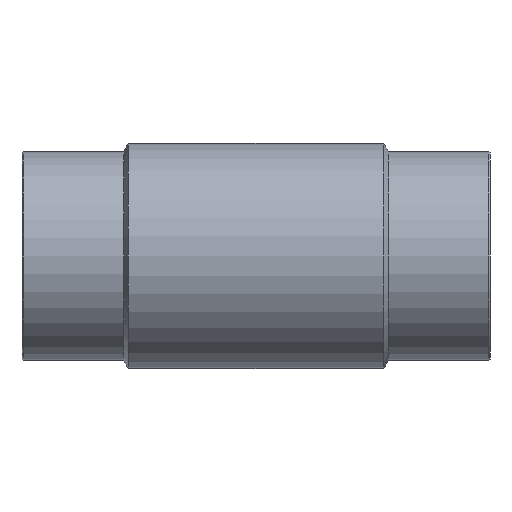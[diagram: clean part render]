
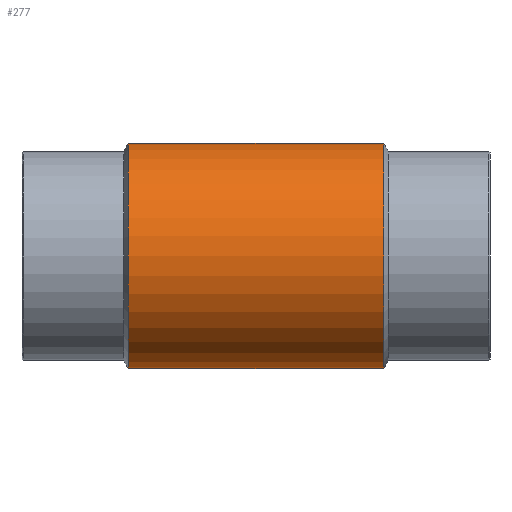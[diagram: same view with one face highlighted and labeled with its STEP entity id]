
A CAD part, front view. The second image highlights one B-rep face of the part: STEP entity #277.
In plain terms, the highlighted cylindrical face has radius 169.5 mm (diameter 339 mm), a full revolution.
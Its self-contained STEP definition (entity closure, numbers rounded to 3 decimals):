
#22=ELLIPSE('',#328,244.709,169.5);
#23=ELLIPSE('',#329,244.709,169.5);
#34=CYLINDRICAL_SURFACE('',#327,169.5);
#59=ORIENTED_EDGE('',*,*,#106,.T.);
#60=ORIENTED_EDGE('',*,*,#107,.T.);
#61=ORIENTED_EDGE('',*,*,#98,.F.);
#62=ORIENTED_EDGE('',*,*,#105,.T.);
#98=EDGE_CURVE('',#124,#124,#147,.T.);
#105=EDGE_CURVE('',#131,#131,#154,.T.);
#106=EDGE_CURVE('',#132,#133,#22,.F.);
#107=EDGE_CURVE('',#133,#132,#23,.T.);
#124=VERTEX_POINT('',#568);
#131=VERTEX_POINT('',#587);
#132=VERTEX_POINT('',#590);
#133=VERTEX_POINT('',#591);
#147=CIRCLE('',#314,169.5);
#154=CIRCLE('',#326,169.5);
#182=EDGE_LOOP('',(#59,#60));
#183=EDGE_LOOP('',(#61));
#184=EDGE_LOOP('',(#62));
#230=FACE_BOUND('',#182,.T.);
#231=FACE_BOUND('',#183,.T.);
#232=FACE_BOUND('',#184,.T.);
#277=ADVANCED_FACE('',(#230,#231,#232),#34,.T.);
#314=AXIS2_PLACEMENT_3D('',#567,#372,#373);
#326=AXIS2_PLACEMENT_3D('',#586,#396,#397);
#327=AXIS2_PLACEMENT_3D('',#588,#398,#399);
#328=AXIS2_PLACEMENT_3D('',#589,#400,#401);
#329=AXIS2_PLACEMENT_3D('',#592,#402,#403);
#372=DIRECTION('',(-1.,0.,0.));
#373=DIRECTION('',(0.,0.,1.));
#396=DIRECTION('',(-1.,0.,0.));
#397=DIRECTION('',(0.,0.,1.));
#398=DIRECTION('',(-1.,0.,0.));
#399=DIRECTION('',(0.,0.,1.));
#400=DIRECTION('',(0.693,0.721,0.));
#401=DIRECTION('',(-0.721,0.693,0.));
#402=DIRECTION('',(0.693,-0.721,0.));
#403=DIRECTION('',(-0.721,-0.693,0.));
#567=CARTESIAN_POINT('',(-192.5,0.,0.));
#568=CARTESIAN_POINT('',(-192.5,0.,169.5));
#586=CARTESIAN_POINT('',(192.5,0.,0.));
#587=CARTESIAN_POINT('',(192.5,0.,169.5));
#588=CARTESIAN_POINT('',(-60.,0.,0.));
#589=CARTESIAN_POINT('',(0.,0.,0.));
#590=CARTESIAN_POINT('',(0.,0.,169.5));
#591=CARTESIAN_POINT('',(0.,0.,-169.5));
#592=CARTESIAN_POINT('',(0.,0.,0.));
